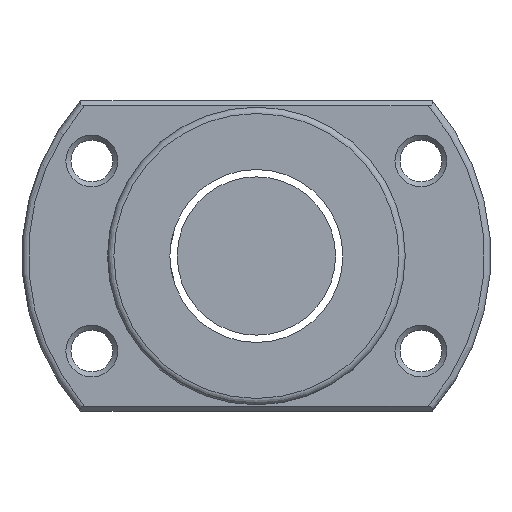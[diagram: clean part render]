
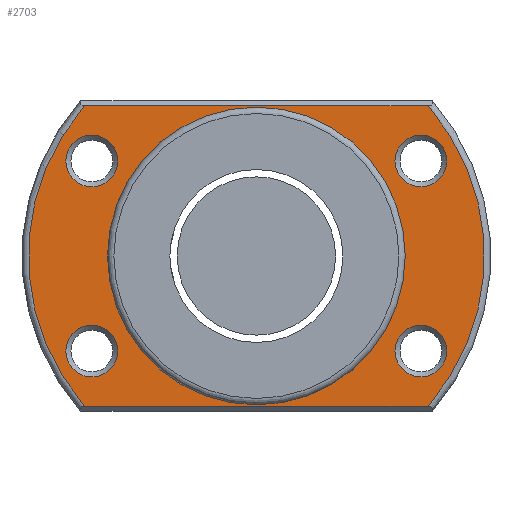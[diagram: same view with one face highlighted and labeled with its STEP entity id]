
A CAD part, left-side view. The second image highlights one B-rep face of the part: STEP entity #2703.
In plain terms, the highlighted planar face has unit normal (-1, 0, 0).
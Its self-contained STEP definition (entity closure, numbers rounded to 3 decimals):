
#2 = EDGE_CURVE ( 'NONE', #1624, #837, #1617, .T. ) ;
#64 = EDGE_CURVE ( 'NONE', #1101, #1101, #2890, .T. ) ;
#97 = DIRECTION ( 'NONE',  ( 0., 0., 1. ) ) ;
#151 = VECTOR ( 'NONE', #346, 1000. ) ;
#163 = DIRECTION ( 'NONE',  ( 0., 0., 1. ) ) ;
#184 = EDGE_CURVE ( 'NONE', #2522, #2522, #2301, .T. ) ;
#197 = AXIS2_PLACEMENT_3D ( 'NONE', #650, #1357, #1815 ) ;
#255 = CIRCLE ( 'NONE', #940, 4.1 ) ;
#276 = EDGE_LOOP ( 'NONE', ( #1319 ) ) ;
#279 = ORIENTED_EDGE ( 'NONE', *, *, #547, .T. ) ;
#288 = EDGE_CURVE ( 'NONE', #2480, #2480, #1767, .T. ) ;
#302 = AXIS2_PLACEMENT_3D ( 'NONE', #2690, #2661, #1534 ) ;
#338 = FACE_BOUND ( 'NONE', #2629, .T. ) ;
#346 = DIRECTION ( 'NONE',  ( 0., -1., 0. ) ) ;
#385 = CARTESIAN_POINT ( 'NONE',  ( -49., 25.981, 15. ) ) ;
#505 = VERTEX_POINT ( 'NONE', #668 ) ;
#518 = DIRECTION ( 'NONE',  ( -1., 0., 0. ) ) ;
#547 = EDGE_CURVE ( 'NONE', #505, #1624, #1053, .T. ) ;
#585 = DIRECTION ( 'NONE',  ( 0., 0., 1. ) ) ;
#634 = VERTEX_POINT ( 'NONE', #1574 ) ;
#650 = CARTESIAN_POINT ( 'NONE',  ( -49., -25.981, -15. ) ) ;
#668 = CARTESIAN_POINT ( 'NONE',  ( -49., 27.098, -23.7 ) ) ;
#716 = DIRECTION ( 'NONE',  ( 0., 1., 0. ) ) ;
#785 = CARTESIAN_POINT ( 'NONE',  ( -49., -27.098, 23.7 ) ) ;
#816 = DIRECTION ( 'NONE',  ( 1., 0., 0. ) ) ;
#837 = VERTEX_POINT ( 'NONE', #785 ) ;
#940 = AXIS2_PLACEMENT_3D ( 'NONE', #385, #816, #97 ) ;
#991 = AXIS2_PLACEMENT_3D ( 'NONE', #1730, #1502, #1058 ) ;
#1000 = CARTESIAN_POINT ( 'NONE',  ( -49., 0., 0. ) ) ;
#1041 = CIRCLE ( 'NONE', #2651, 4.1 ) ;
#1053 = LINE ( 'NONE', #2494, #151 ) ;
#1058 = DIRECTION ( 'NONE',  ( 0., 0., 1. ) ) ;
#1069 = CARTESIAN_POINT ( 'NONE',  ( -49., -27.098, -23.7 ) ) ;
#1090 = CARTESIAN_POINT ( 'NONE',  ( -49., 0., 0. ) ) ;
#1094 = EDGE_CURVE ( 'NONE', #634, #634, #255, .T. ) ;
#1101 = VERTEX_POINT ( 'NONE', #1788 ) ;
#1114 = CARTESIAN_POINT ( 'NONE',  ( -49., 25.981, -10.9 ) ) ;
#1145 = EDGE_CURVE ( 'NONE', #2278, #2278, #1041, .T. ) ;
#1165 = EDGE_LOOP ( 'NONE', ( #2394 ) ) ;
#1196 = ORIENTED_EDGE ( 'NONE', *, *, #2477, .T. ) ;
#1212 = DIRECTION ( 'NONE',  ( 0., 0., 1. ) ) ;
#1273 = FACE_BOUND ( 'NONE', #1165, .T. ) ;
#1319 = ORIENTED_EDGE ( 'NONE', *, *, #64, .T. ) ;
#1357 = DIRECTION ( 'NONE',  ( 1., 0., 0. ) ) ;
#1395 = ORIENTED_EDGE ( 'NONE', *, *, #1145, .T. ) ;
#1415 = EDGE_LOOP ( 'NONE', ( #2831 ) ) ;
#1465 = CARTESIAN_POINT ( 'NONE',  ( -49., 27.098, 23.7 ) ) ;
#1474 = FACE_BOUND ( 'NONE', #276, .T. ) ;
#1484 = AXIS2_PLACEMENT_3D ( 'NONE', #1090, #1804, #163 ) ;
#1502 = DIRECTION ( 'NONE',  ( 1., 0., 0. ) ) ;
#1525 = CARTESIAN_POINT ( 'NONE',  ( -49., 25.981, -15. ) ) ;
#1534 = DIRECTION ( 'NONE',  ( 0., 0., -1. ) ) ;
#1574 = CARTESIAN_POINT ( 'NONE',  ( -49., 25.981, 19.1 ) ) ;
#1589 = CARTESIAN_POINT ( 'NONE',  ( -49., -25.981, -10.9 ) ) ;
#1617 = CIRCLE ( 'NONE', #2108, 36. ) ;
#1624 = VERTEX_POINT ( 'NONE', #1069 ) ;
#1657 = EDGE_LOOP ( 'NONE', ( #279, #1785, #2020, #1196 ) ) ;
#1669 = CARTESIAN_POINT ( 'NONE',  ( -49., 37., 0. ) ) ;
#1678 = AXIS2_PLACEMENT_3D ( 'NONE', #1669, #518, #1212 ) ;
#1685 = FACE_BOUND ( 'NONE', #1415, .T. ) ;
#1730 = CARTESIAN_POINT ( 'NONE',  ( -49., -25.981, 15. ) ) ;
#1743 = DIRECTION ( 'NONE',  ( 0., 0., 1. ) ) ;
#1767 = CIRCLE ( 'NONE', #197, 4.1 ) ;
#1785 = ORIENTED_EDGE ( 'NONE', *, *, #2, .T. ) ;
#1788 = CARTESIAN_POINT ( 'NONE',  ( -49., 0., -23.5 ) ) ;
#1804 = DIRECTION ( 'NONE',  ( -1., 0., 0. ) ) ;
#1815 = DIRECTION ( 'NONE',  ( 0., 0., 1. ) ) ;
#1884 = LINE ( 'NONE', #2815, #2991 ) ;
#1897 = EDGE_LOOP ( 'NONE', ( #1395 ) ) ;
#1913 = FACE_OUTER_BOUND ( 'NONE', #1657, .T. ) ;
#1929 = DIRECTION ( 'NONE',  ( -1., 0., 0. ) ) ;
#2020 = ORIENTED_EDGE ( 'NONE', *, *, #2588, .T. ) ;
#2108 = AXIS2_PLACEMENT_3D ( 'NONE', #1000, #1929, #1743 ) ;
#2118 = CIRCLE ( 'NONE', #1484, 36. ) ;
#2160 = PLANE ( 'NONE',  #1678 ) ;
#2278 = VERTEX_POINT ( 'NONE', #1114 ) ;
#2301 = CIRCLE ( 'NONE', #991, 4.1 ) ;
#2376 = VERTEX_POINT ( 'NONE', #1465 ) ;
#2394 = ORIENTED_EDGE ( 'NONE', *, *, #1094, .T. ) ;
#2477 = EDGE_CURVE ( 'NONE', #2376, #505, #2118, .T. ) ;
#2480 = VERTEX_POINT ( 'NONE', #1589 ) ;
#2494 = CARTESIAN_POINT ( 'NONE',  ( -49., 37., -23.7 ) ) ;
#2522 = VERTEX_POINT ( 'NONE', #2709 ) ;
#2557 = ORIENTED_EDGE ( 'NONE', *, *, #288, .T. ) ;
#2588 = EDGE_CURVE ( 'NONE', #837, #2376, #1884, .T. ) ;
#2617 = FACE_BOUND ( 'NONE', #1897, .T. ) ;
#2629 = EDGE_LOOP ( 'NONE', ( #2557 ) ) ;
#2651 = AXIS2_PLACEMENT_3D ( 'NONE', #1525, #2898, #585 ) ;
#2661 = DIRECTION ( 'NONE',  ( 1., 0., 0. ) ) ;
#2690 = CARTESIAN_POINT ( 'NONE',  ( -49., 0., 0. ) ) ;
#2703 = ADVANCED_FACE ( 'NONE', ( #2617, #338, #1685, #1273, #1474, #1913 ), #2160, .T. ) ;
#2709 = CARTESIAN_POINT ( 'NONE',  ( -49., -25.981, 19.1 ) ) ;
#2815 = CARTESIAN_POINT ( 'NONE',  ( -49., 37., 23.7 ) ) ;
#2831 = ORIENTED_EDGE ( 'NONE', *, *, #184, .T. ) ;
#2890 = CIRCLE ( 'NONE', #302, 23.5 ) ;
#2898 = DIRECTION ( 'NONE',  ( 1., 0., 0. ) ) ;
#2991 = VECTOR ( 'NONE', #716, 1000. ) ;
